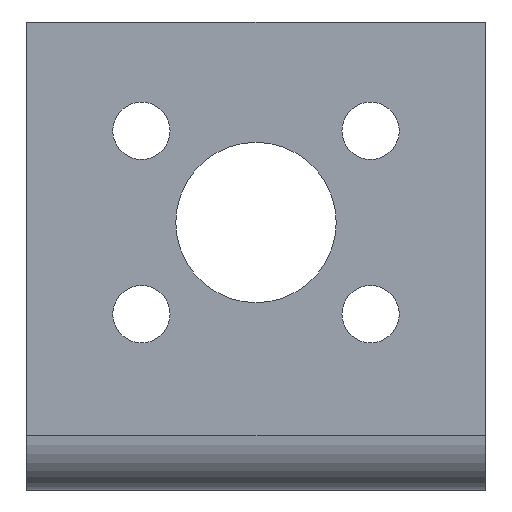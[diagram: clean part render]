
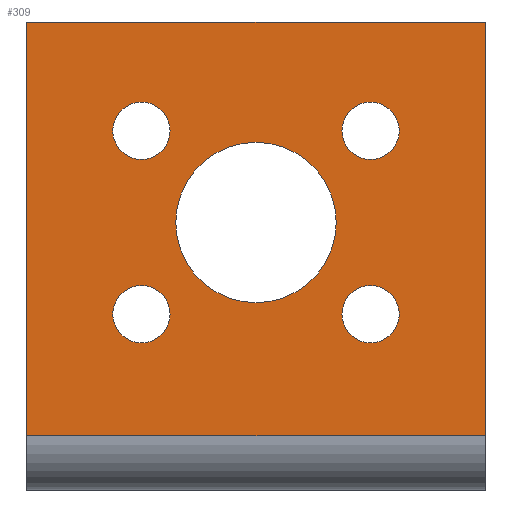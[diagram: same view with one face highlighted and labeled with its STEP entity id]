
A CAD part, front view. The second image highlights one B-rep face of the part: STEP entity #309.
In plain terms, the highlighted planar face has unit normal (0, -1, 0).
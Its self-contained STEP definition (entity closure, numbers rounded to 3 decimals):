
#8 = CIRCLE ( 'NONE', #2810, 7. ) ;
#54 = ORIENTED_EDGE ( 'NONE', *, *, #2149, .T. ) ;
#81 = VECTOR ( 'NONE', #348, 1000. ) ;
#85 = LINE ( 'NONE', #592, #627 ) ;
#86 = ORIENTED_EDGE ( 'NONE', *, *, #385, .T. ) ;
#93 = AXIS2_PLACEMENT_3D ( 'NONE', #166, #2943, #1565 ) ;
#98 = CARTESIAN_POINT ( 'NONE',  ( 20., 33.156, 19.344 ) ) ;
#149 = CARTESIAN_POINT ( 'NONE',  ( 13., 33.156, 19.344 ) ) ;
#151 = EDGE_CURVE ( 'NONE', #1157, #1848, #181, .T. ) ;
#162 = EDGE_LOOP ( 'NONE', ( #218, #86 ) ) ;
#163 = ORIENTED_EDGE ( 'NONE', *, *, #1383, .T. ) ;
#166 = CARTESIAN_POINT ( 'NONE',  ( 0., 33.156, 36.844 ) ) ;
#180 = CARTESIAN_POINT ( 'NONE',  ( 12.5, 33.156, 11.344 ) ) ;
#181 = CIRCLE ( 'NONE', #557, 2.5 ) ;
#213 = DIRECTION ( 'NONE',  ( 0., 1., 0. ) ) ;
#218 = ORIENTED_EDGE ( 'NONE', *, *, #2159, .T. ) ;
#292 = EDGE_CURVE ( 'NONE', #2199, #573, #1806, .T. ) ;
#309 = ADVANCED_FACE ( 'NONE', ( #2272, #2951, #2816, #2346, #1732, #330 ), #2262, .T. ) ;
#321 = CARTESIAN_POINT ( 'NONE',  ( 0., 33.156, 36.844 ) ) ;
#322 = DIRECTION ( 'NONE',  ( 0., 1., 0. ) ) ;
#330 = FACE_OUTER_BOUND ( 'NONE', #2715, .T. ) ;
#348 = DIRECTION ( 'NONE',  ( 0., 0., -1. ) ) ;
#359 = DIRECTION ( 'NONE',  ( 1., 0., 0. ) ) ;
#368 = EDGE_CURVE ( 'NONE', #1427, #1913, #2775, .T. ) ;
#385 = EDGE_CURVE ( 'NONE', #2091, #2937, #2482, .T. ) ;
#447 = LINE ( 'NONE', #798, #81 ) ;
#450 = VECTOR ( 'NONE', #2189, 1000. ) ;
#451 = ORIENTED_EDGE ( 'NONE', *, *, #151, .T. ) ;
#452 = DIRECTION ( 'NONE',  ( 0., 1., 0. ) ) ;
#462 = DIRECTION ( 'NONE',  ( 0., 1., 0. ) ) ;
#485 = CARTESIAN_POINT ( 'NONE',  ( 12.5, 33.156, 27.344 ) ) ;
#557 = AXIS2_PLACEMENT_3D ( 'NONE', #2990, #452, #3004 ) ;
#564 = CARTESIAN_POINT ( 'NONE',  ( 27.5, 33.156, 11.344 ) ) ;
#573 = VERTEX_POINT ( 'NONE', #1461 ) ;
#592 = CARTESIAN_POINT ( 'NONE',  ( 0., 33.156, 36.844 ) ) ;
#627 = VECTOR ( 'NONE', #1068, 1000. ) ;
#637 = CARTESIAN_POINT ( 'NONE',  ( 0., 33.156, 0.737 ) ) ;
#646 = EDGE_CURVE ( 'NONE', #2199, #2526, #1523, .T. ) ;
#676 = DIRECTION ( 'NONE',  ( 0., 1., 0. ) ) ;
#705 = CARTESIAN_POINT ( 'NONE',  ( 7.5, 33.156, 27.344 ) ) ;
#734 = EDGE_LOOP ( 'NONE', ( #750, #1036 ) ) ;
#750 = ORIENTED_EDGE ( 'NONE', *, *, #1850, .T. ) ;
#772 = CIRCLE ( 'NONE', #1568, 2.5 ) ;
#791 = EDGE_CURVE ( 'NONE', #2526, #1972, #85, .T. ) ;
#798 = CARTESIAN_POINT ( 'NONE',  ( 40., 33.156, 36.844 ) ) ;
#814 = CIRCLE ( 'NONE', #3008, 7. ) ;
#875 = AXIS2_PLACEMENT_3D ( 'NONE', #2329, #676, #2809 ) ;
#901 = AXIS2_PLACEMENT_3D ( 'NONE', #2345, #213, #2547 ) ;
#921 = DIRECTION ( 'NONE',  ( 0., 1., 0. ) ) ;
#940 = DIRECTION ( 'NONE',  ( 1., 0., 0. ) ) ;
#1022 = EDGE_CURVE ( 'NONE', #1535, #1333, #814, .T. ) ;
#1028 = CIRCLE ( 'NONE', #2231, 2.5 ) ;
#1036 = ORIENTED_EDGE ( 'NONE', *, *, #1022, .T. ) ;
#1039 = DIRECTION ( 'NONE',  ( 0., 1., 0. ) ) ;
#1068 = DIRECTION ( 'NONE',  ( 1., 0., 0. ) ) ;
#1096 = DIRECTION ( 'NONE',  ( 0., 1., 0. ) ) ;
#1157 = VERTEX_POINT ( 'NONE', #2139 ) ;
#1184 = VERTEX_POINT ( 'NONE', #705 ) ;
#1213 = VERTEX_POINT ( 'NONE', #485 ) ;
#1292 = CARTESIAN_POINT ( 'NONE',  ( 30., 33.156, 11.344 ) ) ;
#1333 = VERTEX_POINT ( 'NONE', #1955 ) ;
#1368 = EDGE_CURVE ( 'NONE', #1972, #573, #447, .T. ) ;
#1375 = CARTESIAN_POINT ( 'NONE',  ( 20., 33.156, 19.344 ) ) ;
#1383 = EDGE_CURVE ( 'NONE', #1213, #1184, #1028, .T. ) ;
#1391 = DIRECTION ( 'NONE',  ( 1., 0., 0. ) ) ;
#1423 = EDGE_LOOP ( 'NONE', ( #451, #54 ) ) ;
#1427 = VERTEX_POINT ( 'NONE', #564 ) ;
#1461 = CARTESIAN_POINT ( 'NONE',  ( 40., 33.156, 0.737 ) ) ;
#1476 = CARTESIAN_POINT ( 'NONE',  ( 32.5, 33.156, 11.344 ) ) ;
#1484 = CARTESIAN_POINT ( 'NONE',  ( 7.5, 33.156, 11.344 ) ) ;
#1504 = AXIS2_PLACEMENT_3D ( 'NONE', #1643, #462, #940 ) ;
#1516 = CIRCLE ( 'NONE', #1504, 2.5 ) ;
#1517 = CIRCLE ( 'NONE', #2103, 2.5 ) ;
#1523 = LINE ( 'NONE', #321, #450 ) ;
#1524 = ORIENTED_EDGE ( 'NONE', *, *, #646, .F. ) ;
#1527 = CARTESIAN_POINT ( 'NONE',  ( 27.5, 33.156, 27.344 ) ) ;
#1535 = VERTEX_POINT ( 'NONE', #149 ) ;
#1565 = DIRECTION ( 'NONE',  ( -1., 0., 0. ) ) ;
#1568 = AXIS2_PLACEMENT_3D ( 'NONE', #1292, #1096, #2733 ) ;
#1608 = CARTESIAN_POINT ( 'NONE',  ( 0., 33.156, 36.844 ) ) ;
#1643 = CARTESIAN_POINT ( 'NONE',  ( 10., 33.156, 27.344 ) ) ;
#1670 = EDGE_CURVE ( 'NONE', #1184, #1213, #1516, .T. ) ;
#1731 = CARTESIAN_POINT ( 'NONE',  ( 10., 33.156, 11.344 ) ) ;
#1732 = FACE_BOUND ( 'NONE', #3000, .T. ) ;
#1771 = CARTESIAN_POINT ( 'NONE',  ( 30., 33.156, 27.344 ) ) ;
#1806 = LINE ( 'NONE', #637, #2881 ) ;
#1819 = DIRECTION ( 'NONE',  ( 1., 0., 0. ) ) ;
#1848 = VERTEX_POINT ( 'NONE', #1527 ) ;
#1850 = EDGE_CURVE ( 'NONE', #1333, #1535, #8, .T. ) ;
#1913 = VERTEX_POINT ( 'NONE', #1476 ) ;
#1955 = CARTESIAN_POINT ( 'NONE',  ( 27., 33.156, 19.344 ) ) ;
#1972 = VERTEX_POINT ( 'NONE', #2399 ) ;
#1991 = DIRECTION ( 'NONE',  ( 0., 1., 0. ) ) ;
#2005 = CARTESIAN_POINT ( 'NONE',  ( 10., 33.156, 27.344 ) ) ;
#2080 = EDGE_LOOP ( 'NONE', ( #2578, #2647 ) ) ;
#2091 = VERTEX_POINT ( 'NONE', #1484 ) ;
#2103 = AXIS2_PLACEMENT_3D ( 'NONE', #1731, #322, #2664 ) ;
#2104 = ORIENTED_EDGE ( 'NONE', *, *, #1670, .T. ) ;
#2113 = CARTESIAN_POINT ( 'NONE',  ( 0., 33.156, 0.737 ) ) ;
#2139 = CARTESIAN_POINT ( 'NONE',  ( 32.5, 33.156, 27.344 ) ) ;
#2149 = EDGE_CURVE ( 'NONE', #1848, #1157, #2321, .T. ) ;
#2159 = EDGE_CURVE ( 'NONE', #2937, #2091, #1517, .T. ) ;
#2160 = ORIENTED_EDGE ( 'NONE', *, *, #292, .T. ) ;
#2189 = DIRECTION ( 'NONE',  ( 0., 0., 1. ) ) ;
#2199 = VERTEX_POINT ( 'NONE', #2113 ) ;
#2208 = DIRECTION ( 'NONE',  ( 0., 1., 0. ) ) ;
#2231 = AXIS2_PLACEMENT_3D ( 'NONE', #2005, #1991, #2674 ) ;
#2262 = PLANE ( 'NONE',  #93 ) ;
#2272 = FACE_BOUND ( 'NONE', #162, .T. ) ;
#2295 = AXIS2_PLACEMENT_3D ( 'NONE', #1771, #2208, #359 ) ;
#2321 = CIRCLE ( 'NONE', #2295, 2.5 ) ;
#2329 = CARTESIAN_POINT ( 'NONE',  ( 30., 33.156, 11.344 ) ) ;
#2345 = CARTESIAN_POINT ( 'NONE',  ( 10., 33.156, 11.344 ) ) ;
#2346 = FACE_BOUND ( 'NONE', #734, .T. ) ;
#2399 = CARTESIAN_POINT ( 'NONE',  ( 40., 33.156, 36.844 ) ) ;
#2440 = EDGE_CURVE ( 'NONE', #1913, #1427, #772, .T. ) ;
#2445 = DIRECTION ( 'NONE',  ( 1., 0., 0. ) ) ;
#2482 = CIRCLE ( 'NONE', #901, 2.5 ) ;
#2526 = VERTEX_POINT ( 'NONE', #1608 ) ;
#2547 = DIRECTION ( 'NONE',  ( 1., 0., 0. ) ) ;
#2570 = ORIENTED_EDGE ( 'NONE', *, *, #791, .F. ) ;
#2578 = ORIENTED_EDGE ( 'NONE', *, *, #2440, .T. ) ;
#2647 = ORIENTED_EDGE ( 'NONE', *, *, #368, .T. ) ;
#2664 = DIRECTION ( 'NONE',  ( 1., 0., 0. ) ) ;
#2674 = DIRECTION ( 'NONE',  ( 1., 0., 0. ) ) ;
#2715 = EDGE_LOOP ( 'NONE', ( #1524, #2160, #2915, #2570 ) ) ;
#2733 = DIRECTION ( 'NONE',  ( 1., 0., 0. ) ) ;
#2775 = CIRCLE ( 'NONE', #875, 2.5 ) ;
#2809 = DIRECTION ( 'NONE',  ( 1., 0., 0. ) ) ;
#2810 = AXIS2_PLACEMENT_3D ( 'NONE', #98, #1039, #2445 ) ;
#2816 = FACE_BOUND ( 'NONE', #1423, .T. ) ;
#2881 = VECTOR ( 'NONE', #1819, 1000. ) ;
#2915 = ORIENTED_EDGE ( 'NONE', *, *, #1368, .F. ) ;
#2937 = VERTEX_POINT ( 'NONE', #180 ) ;
#2943 = DIRECTION ( 'NONE',  ( 0., -1., 0. ) ) ;
#2951 = FACE_BOUND ( 'NONE', #2080, .T. ) ;
#2990 = CARTESIAN_POINT ( 'NONE',  ( 30., 33.156, 27.344 ) ) ;
#3000 = EDGE_LOOP ( 'NONE', ( #163, #2104 ) ) ;
#3004 = DIRECTION ( 'NONE',  ( 1., 0., 0. ) ) ;
#3008 = AXIS2_PLACEMENT_3D ( 'NONE', #1375, #921, #1391 ) ;
